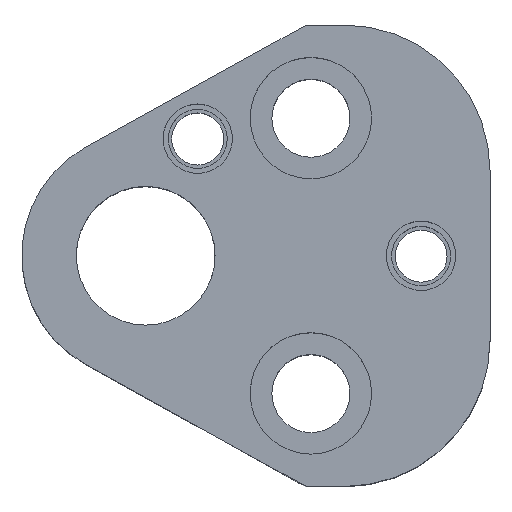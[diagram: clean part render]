
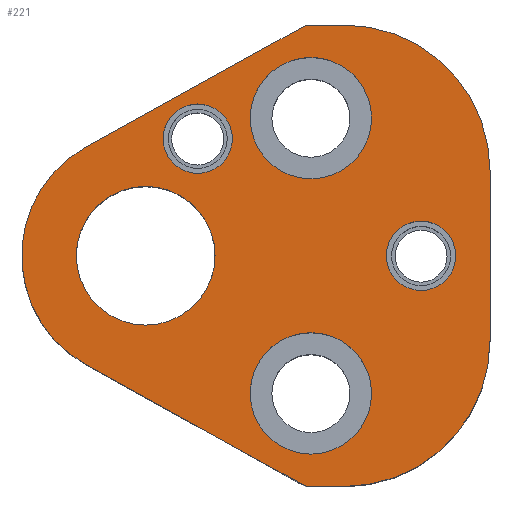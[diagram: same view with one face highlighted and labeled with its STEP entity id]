
A CAD part, top view. The second image highlights one B-rep face of the part: STEP entity #221.
In plain terms, the highlighted planar face has unit normal (0, 0, 1).
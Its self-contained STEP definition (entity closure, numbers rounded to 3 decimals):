
#104=FACE_BOUND('',#319,.T.);
#105=FACE_BOUND('',#320,.T.);
#106=FACE_BOUND('',#321,.T.);
#107=FACE_BOUND('',#322,.T.);
#108=FACE_BOUND('',#323,.T.);
#109=FACE_BOUND('',#324,.T.);
#149=CIRCLE('',#871,16.8);
#151=CIRCLE('',#875,16.8);
#161=CIRCLE('',#892,7.);
#163=CIRCLE('',#895,7.);
#165=CIRCLE('',#899,7.);
#167=CIRCLE('',#902,7.);
#169=CIRCLE('',#906,14.3);
#170=CIRCLE('',#907,4.);
#171=CIRCLE('',#908,4.);
#172=CIRCLE('',#909,4.);
#173=CIRCLE('',#910,4.);
#174=CIRCLE('',#911,8.);
#175=CIRCLE('',#912,8.);
#221=ADVANCED_FACE('',(#104,#105,#106,#107,#108,#109),#255,.T.);
#255=PLANE('',#913);
#319=EDGE_LOOP('',(#424,#425,#426,#427,#428,#429,#430,#431));
#320=EDGE_LOOP('',(#432,#433));
#321=EDGE_LOOP('',(#434,#435));
#322=EDGE_LOOP('',(#436,#437));
#323=EDGE_LOOP('',(#438,#439));
#324=EDGE_LOOP('',(#440,#441));
#424=ORIENTED_EDGE('',*,*,#696,.T.);
#425=ORIENTED_EDGE('',*,*,#654,.T.);
#426=ORIENTED_EDGE('',*,*,#658,.T.);
#427=ORIENTED_EDGE('',*,*,#661,.T.);
#428=ORIENTED_EDGE('',*,*,#664,.T.);
#429=ORIENTED_EDGE('',*,*,#667,.T.);
#430=ORIENTED_EDGE('',*,*,#670,.T.);
#431=ORIENTED_EDGE('',*,*,#697,.T.);
#432=ORIENTED_EDGE('',*,*,#698,.F.);
#433=ORIENTED_EDGE('',*,*,#699,.F.);
#434=ORIENTED_EDGE('',*,*,#700,.F.);
#435=ORIENTED_EDGE('',*,*,#701,.F.);
#436=ORIENTED_EDGE('',*,*,#694,.F.);
#437=ORIENTED_EDGE('',*,*,#690,.F.);
#438=ORIENTED_EDGE('',*,*,#688,.F.);
#439=ORIENTED_EDGE('',*,*,#684,.F.);
#440=ORIENTED_EDGE('',*,*,#702,.T.);
#441=ORIENTED_EDGE('',*,*,#703,.T.);
#581=VERTEX_POINT('',#1228);
#582=VERTEX_POINT('',#1230);
#585=VERTEX_POINT('',#1237);
#587=VERTEX_POINT('',#1243);
#589=VERTEX_POINT('',#1249);
#591=VERTEX_POINT('',#1255);
#593=VERTEX_POINT('',#1261);
#602=VERTEX_POINT('',#1290);
#603=VERTEX_POINT('',#1291);
#606=VERTEX_POINT('',#1303);
#607=VERTEX_POINT('',#1304);
#610=VERTEX_POINT('',#1316);
#611=VERTEX_POINT('',#1319);
#612=VERTEX_POINT('',#1320);
#613=VERTEX_POINT('',#1323);
#614=VERTEX_POINT('',#1324);
#615=VERTEX_POINT('',#1327);
#616=VERTEX_POINT('',#1328);
#654=EDGE_CURVE('',#582,#581,#764,.T.);
#658=EDGE_CURVE('',#581,#585,#149,.T.);
#661=EDGE_CURVE('',#585,#587,#769,.T.);
#664=EDGE_CURVE('',#587,#589,#151,.T.);
#667=EDGE_CURVE('',#589,#591,#773,.T.);
#670=EDGE_CURVE('',#591,#593,#776,.T.);
#684=EDGE_CURVE('',#602,#603,#161,.T.);
#688=EDGE_CURVE('',#603,#602,#163,.T.);
#690=EDGE_CURVE('',#606,#607,#165,.T.);
#694=EDGE_CURVE('',#607,#606,#167,.T.);
#696=EDGE_CURVE('',#610,#582,#786,.T.);
#697=EDGE_CURVE('',#593,#610,#169,.T.);
#698=EDGE_CURVE('',#611,#612,#170,.T.);
#699=EDGE_CURVE('',#612,#611,#171,.T.);
#700=EDGE_CURVE('',#613,#614,#172,.T.);
#701=EDGE_CURVE('',#614,#613,#173,.T.);
#702=EDGE_CURVE('',#615,#616,#174,.T.);
#703=EDGE_CURVE('',#616,#615,#175,.T.);
#764=LINE('',#1229,#817);
#769=LINE('',#1244,#822);
#773=LINE('',#1256,#826);
#776=LINE('',#1262,#829);
#786=LINE('',#1315,#839);
#817=VECTOR('',#973,1.);
#822=VECTOR('',#986,1.);
#826=VECTOR('',#998,1.);
#829=VECTOR('',#1003,1.);
#839=VECTOR('',#1067,1.);
#871=AXIS2_PLACEMENT_3D('',#1238,#979,#980);
#875=AXIS2_PLACEMENT_3D('',#1250,#991,#992);
#892=AXIS2_PLACEMENT_3D('',#1289,#1035,#1036);
#895=AXIS2_PLACEMENT_3D('',#1298,#1043,#1044);
#899=AXIS2_PLACEMENT_3D('',#1302,#1051,#1052);
#902=AXIS2_PLACEMENT_3D('',#1311,#1059,#1060);
#906=AXIS2_PLACEMENT_3D('',#1317,#1068,#1069);
#907=AXIS2_PLACEMENT_3D('',#1318,#1070,#1071);
#908=AXIS2_PLACEMENT_3D('',#1321,#1072,#1073);
#909=AXIS2_PLACEMENT_3D('',#1322,#1074,#1075);
#910=AXIS2_PLACEMENT_3D('',#1325,#1076,#1077);
#911=AXIS2_PLACEMENT_3D('',#1326,#1078,#1079);
#912=AXIS2_PLACEMENT_3D('',#1329,#1080,#1081);
#913=AXIS2_PLACEMENT_3D('',#1330,#1082,#1083);
#973=DIRECTION('',(1.,0.,0.));
#979=DIRECTION('',(0.,0.,1.));
#980=DIRECTION('',(-0.707,0.707,0.));
#986=DIRECTION('',(0.,1.,0.));
#991=DIRECTION('',(0.,0.,1.));
#992=DIRECTION('',(-0.707,-0.707,0.));
#998=DIRECTION('',(-1.,0.,0.));
#1003=DIRECTION('',(-0.875,-0.485,0.));
#1035=DIRECTION('',(0.,0.,1.));
#1036=DIRECTION('',(-1.,0.,0.));
#1043=DIRECTION('',(0.,0.,1.));
#1044=DIRECTION('',(1.,0.,0.));
#1051=DIRECTION('',(0.,0.,1.));
#1052=DIRECTION('',(-1.,0.,0.));
#1059=DIRECTION('',(0.,0.,1.));
#1060=DIRECTION('',(1.,0.,0.));
#1067=DIRECTION('',(0.875,-0.485,0.));
#1068=DIRECTION('',(0.,0.,1.));
#1069=DIRECTION('',(1.,0.,0.));
#1070=DIRECTION('',(0.,0.,1.));
#1071=DIRECTION('',(1.,0.,0.));
#1072=DIRECTION('',(0.,0.,1.));
#1073=DIRECTION('',(-1.,0.,0.));
#1074=DIRECTION('',(0.,0.,1.));
#1075=DIRECTION('',(1.,0.,0.));
#1076=DIRECTION('',(0.,0.,1.));
#1077=DIRECTION('',(-1.,0.,0.));
#1078=DIRECTION('',(0.,0.,-1.));
#1079=DIRECTION('',(-1.,0.,0.));
#1080=DIRECTION('',(0.,0.,-1.));
#1081=DIRECTION('',(1.,0.,0.));
#1082=DIRECTION('',(0.,0.,1.));
#1083=DIRECTION('',(-0.875,0.485,0.));
#1228=CARTESIAN_POINT('',(22.9,-26.6,32.));
#1229=CARTESIAN_POINT('',(18.492,-26.6,32.));
#1230=CARTESIAN_POINT('',(18.492,-26.6,32.));
#1237=CARTESIAN_POINT('',(39.7,-9.8,32.));
#1238=CARTESIAN_POINT('',(22.9,-9.8,32.));
#1243=CARTESIAN_POINT('',(39.7,9.8,32.));
#1244=CARTESIAN_POINT('',(39.7,9.8,32.));
#1249=CARTESIAN_POINT('',(22.9,26.6,32.));
#1250=CARTESIAN_POINT('',(22.9,9.8,32.));
#1255=CARTESIAN_POINT('',(18.492,26.6,32.));
#1256=CARTESIAN_POINT('',(18.492,26.6,32.));
#1261=CARTESIAN_POINT('',(-6.933,12.507,32.));
#1262=CARTESIAN_POINT('',(18.492,26.6,32.));
#1289=CARTESIAN_POINT('',(19.05,-15.87,32.));
#1290=CARTESIAN_POINT('',(19.05,-22.87,32.));
#1291=CARTESIAN_POINT('',(19.05,-8.87,32.));
#1298=CARTESIAN_POINT('',(19.05,-15.87,32.));
#1302=CARTESIAN_POINT('',(19.05,15.87,32.));
#1303=CARTESIAN_POINT('',(19.05,8.87,32.));
#1304=CARTESIAN_POINT('',(19.05,22.87,32.));
#1311=CARTESIAN_POINT('',(19.05,15.87,32.));
#1315=CARTESIAN_POINT('',(18.492,-26.6,32.));
#1316=CARTESIAN_POINT('',(-6.933,-12.507,32.));
#1317=CARTESIAN_POINT('',(0.,0.,32.));
#1318=CARTESIAN_POINT('',(31.75,0.,32.));
#1319=CARTESIAN_POINT('',(31.75,4.,32.));
#1320=CARTESIAN_POINT('',(31.75,-4.,32.));
#1321=CARTESIAN_POINT('',(31.75,0.,32.));
#1322=CARTESIAN_POINT('',(6.,13.5,32.));
#1323=CARTESIAN_POINT('',(6.,17.5,32.));
#1324=CARTESIAN_POINT('',(6.,9.5,32.));
#1325=CARTESIAN_POINT('',(6.,13.5,32.));
#1326=CARTESIAN_POINT('',(0.,0.,32.));
#1327=CARTESIAN_POINT('',(0.,8.,32.));
#1328=CARTESIAN_POINT('',(0.,-8.,32.));
#1329=CARTESIAN_POINT('',(0.,0.,32.));
#1330=CARTESIAN_POINT('',(-6.933,-12.507,32.));
